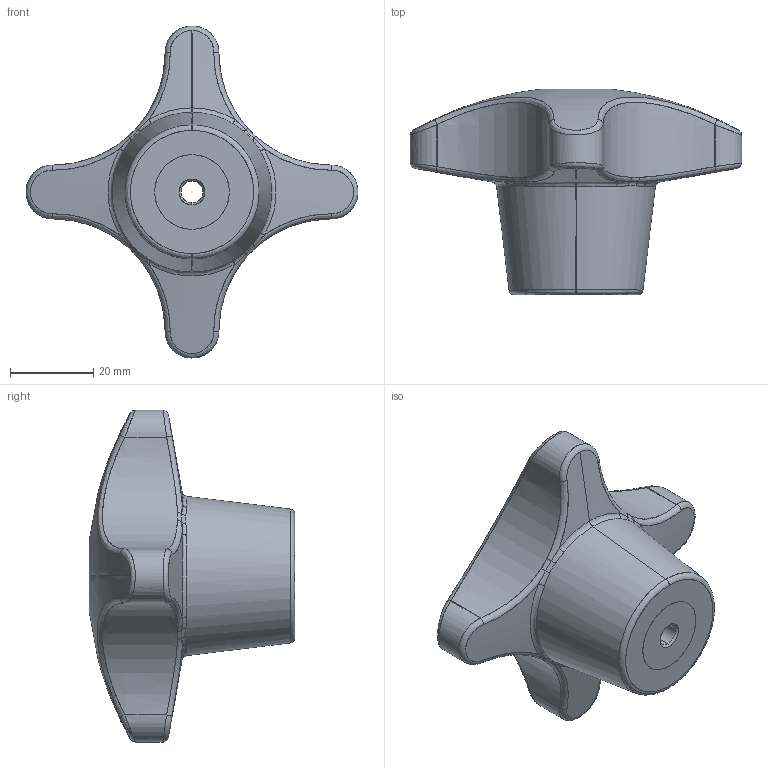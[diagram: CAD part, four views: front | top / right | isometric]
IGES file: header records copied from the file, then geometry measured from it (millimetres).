
Start section: SolidWorks IGES file using analytic representation for surfaces
Global section: file name: C:\Users\Marc\Documents\2 ENGINYERIA\Catalogo 3D\IGS STEP DXF\1121 80 402.IGS; native system: SolidWorks 2010; preprocessor: SolidWorks 2010; author: Marc; date: 101126.170711; units: millimetre
Bounding box: 80 x 49.54 x 80 mm (x, y, z)
Surface area: 15563.6 mm2 (no closed solid volume)
Topology: 0 solids, 0 shells, 81 faces, 1133 edges, 1133 vertices
Faces by surface type: bspline 47, revolution 34
